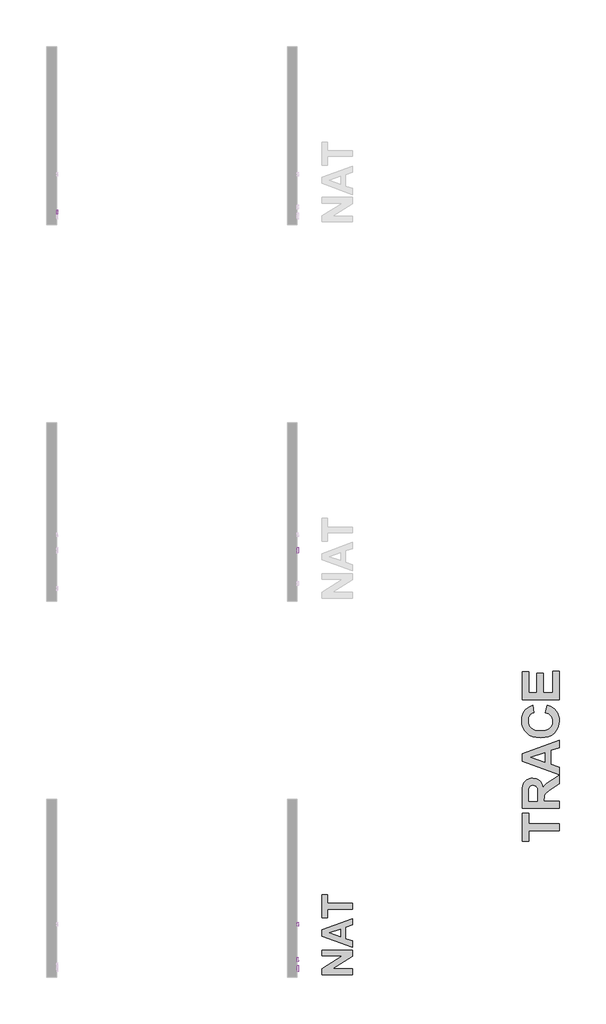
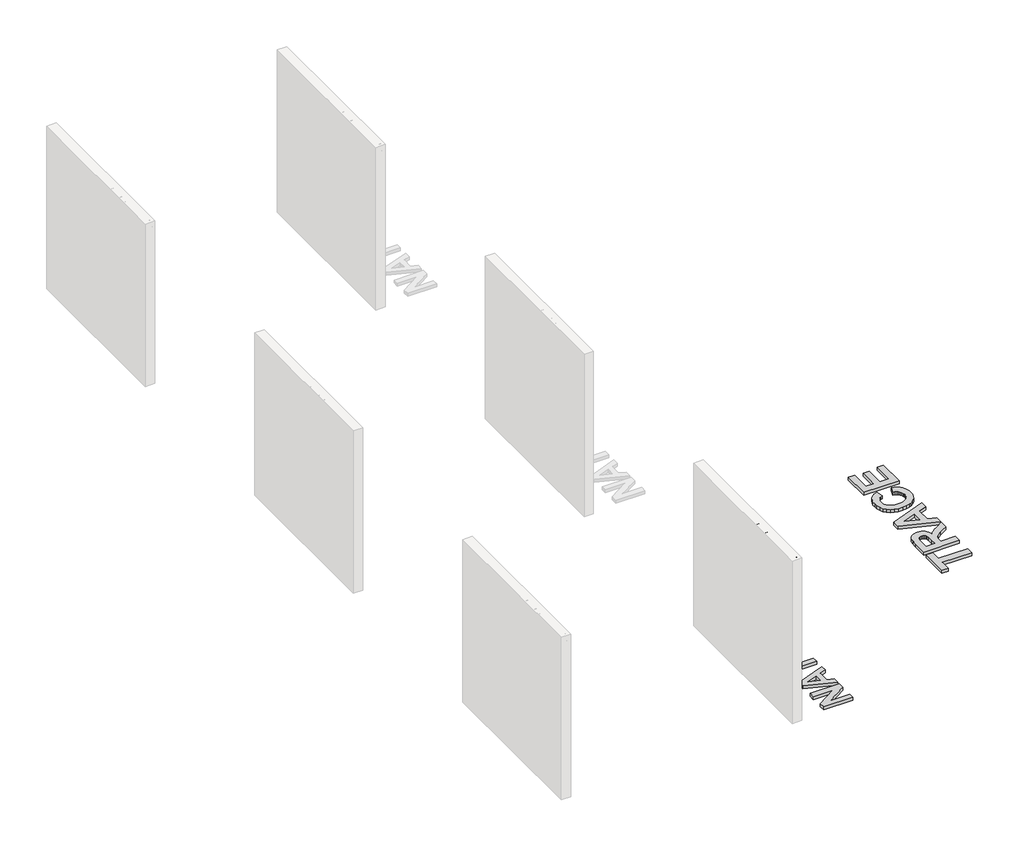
# One storey, part 6 of 9: 7 proxies.
"""IFC4 building model written with IfcOpenShell, lengths in millimetres."""

from ifc_helpers import new_model, si_unit, frame, origin, origin_with_axes, place, context, project, spatial, polyline, outline, extrude, element, save

model = new_model("IFC4")

# Units and contexts
model_context = context("Model", 3, world=origin())
ifc_project = project(units=[si_unit("LENGTHUNIT", "METRE", prefix="MILLI")], contexts=[model_context])

# Site, building, storey
site = spatial("IfcSite", under=ifc_project)
building = spatial("IfcBuilding", under=site)
storey = spatial("IfcBuildingStorey", under=building, Name="PORTOBELLO - SHOWROOM", Elevation=0.0)

# Proxies
placement = place(None, origin())
element("IfcBuildingElementProxy", 1, Name="10mm Arial", ObjectType="10mm Arial", at=placement, inside=storey, context=model_context, shape_type="SweptSolid", body=[
    extrude(outline(polyline([(3760.313312, 2567.3783476), (3763.6610381, 2589.5922887), (3773.7042166, 2606.3983645), (3789.0387644, 2616.9749719), (3808.2605987, 2620.5005077), (3821.4369055, 2618.8450387), (3833.2520489, 2613.8786317), (3843.0622354, 2605.9507747), (3850.2236716, 2595.4109556), (3854.6014673, 2582.7680777), (3856.0607326, 2568.5310445), (3854.5248253, 2554.1039389), (3849.9171033, 2541.2832514), (3842.4920183, 2530.7250381), (3832.5040222, 2523.0853553), (3820.7900463, 2518.4500422), (3808.1870223, 2516.9049378), (3794.8083804, 2518.6125234), (3782.9257919, 2523.7352802), (3773.1401309, 2531.81029), (3766.0522711, 2542.3746346), (3760.313312, 2567.3783476)]), holes=[polyline([(3772.8703507, 2567.2557202), (3775.3811454, 2551.5410277), (3782.9135292, 2539.5664687), (3794.2350976, 2531.9880996), (3808.1134459, 2529.4619766), (3822.1941293, 2532.0126251), (3833.5340918, 2539.6645706), (3841.0112933, 2552.0070115), (3843.5036938, 2568.6291463), (3839.2362627, 2589.3531654), (3826.765063, 2603.0751638), (3808.3341751, 2607.9434689), (3794.8267745, 2605.5982212), (3783.3427249, 2598.562478), (3775.4884443, 2586.0452931), (3772.8703507, 2567.2557202)])]), frame((-13466.0063329, 0.0, 0.0), z_axis=(1.0, 0.0, 0.0), x_axis=(0.0, 1.0, 0.0)), (0.0, 0.0, 1.0), 20.0),
    extrude(outline(polyline([(3918.8459264, 2545.158275), (3931.4029652, 2543.5886452), (3927.9019549, 2532.420361), (3921.3229985, 2523.9805349), (3912.2853642, 2518.6738371), (3901.4083199, 2516.9049378), (3888.0511378, 2519.3728129), (3877.6063548, 2526.776438), (3870.8649172, 2538.7908508), (3868.6177714, 2555.0910889), (3872.4560068, 2575.949998), (3884.1546543, 2589.3531654), (3901.2366416, 2593.8168003), (3911.8469715, 2592.2839586), (3920.3297171, 2587.6854337), (3926.4150985, 2580.2664801), (3929.8333354, 2570.2723526), (3917.2762966, 2568.7027227), (3911.4514983, 2578.1082391), (3901.3347435, 2581.2597615), (3893.2198798, 2579.7085258), (3886.7788792, 2575.0548185), (3882.5758274, 2567.0472538), (3881.1748101, 2555.4344454), (3882.5451706, 2543.6652873), (3886.6562519, 2535.6301314), (3892.9807565, 2531.0040153), (3900.9913869, 2529.4619766), (3912.8249244, 2533.3124748), (3918.8459264, 2545.158275)])), frame((-13466.0063329, 0.0, 0.0), z_axis=(1.0, 0.0, 0.0), x_axis=(0.0, 1.0, 0.0)), (0.0, 0.0, 1.0), 20.0),
    extrude(outline(polyline([(3942.3903741, 2518.4745677), (3942.3903741, 2618.9308778), (3954.9474129, 2618.9308778), (3954.9474129, 2581.9955255), (3964.7392053, 2590.8614816), (3976.7996034, 2593.8168003), (3990.9017466, 2590.5917015), (3999.4611343, 2581.6766944), (4002.0363083, 2565.1710556), (4002.0363083, 2518.4745677), (3989.4792695, 2518.4745677), (3989.4792695, 2563.8712059), (3985.4816185, 2577.1149577), (3974.150853, 2581.2597615), (3963.8624199, 2578.4638583), (3956.9952893, 2570.8854892), (3954.9474129, 2557.6662629), (3954.9474129, 2518.4745677), (3942.3903741, 2518.4745677)])), frame((-13466.0063329, 0.0, 0.0), z_axis=(1.0, 0.0, 0.0), x_axis=(0.0, 1.0, 0.0)), (0.0, 0.0, 1.0), 20.0),
    extrude(outline(polyline([(4070.9528687, 2540.4493855), (4083.2646528, 2538.8797557), (4078.8286091, 2529.602998), (4071.7499464, 2522.6684224), (4062.1880802, 2518.345809), (4050.302426, 2516.9049378), (4035.5687521, 2519.391207), (4024.2318553, 2526.8500144), (4017.0029741, 2538.7969822), (4014.593347, 2554.7477324), (4017.0274996, 2571.2349771), (4024.3299572, 2583.5651553), (4035.5135698, 2591.253889), (4049.5911875, 2593.8168003), (4063.2304125, 2591.2600204), (4074.1289166, 2583.5896808), (4081.2750244, 2571.2840281), (4083.6570603, 2554.8213088), (4083.5834839, 2551.4367944), (4027.1503858, 2551.4367944), (4029.3239553, 2542.0374095), (4034.3731357, 2535.1273593), (4041.6602648, 2530.8783223), (4050.5476807, 2529.4619766), (4062.8594648, 2532.0862015), (4070.9528687, 2540.4493855)]), holes=[polyline([(4027.1503858, 2563.9938332), (4071.1000215, 2563.9938332), (4066.0723009, 2575.3736496), (4058.7514492, 2579.7882335), (4049.5421366, 2581.2597615), (4034.0788301, 2576.5631347), (4029.2135907, 2571.0724959), (4027.1503858, 2563.9938332)])]), frame((-13466.0063329, 0.0, 0.0), z_axis=(1.0, 0.0, 0.0), x_axis=(0.0, 1.0, 0.0)), (0.0, 0.0, 1.0), 20.0),
    extrude(outline(polyline([(4096.214099, 2518.4745677), (4096.214099, 2592.2471704), (4107.201508, 2592.2471704), (4107.201508, 2581.3333379), (4115.0006063, 2591.3887791), (4122.8487555, 2593.8168003), (4135.4548452, 2589.9417766), (4131.2609904, 2578.6845875), (4122.4318226, 2581.2597615), (4115.3317001, 2578.7826894), (4110.8067515, 2571.9155588), (4108.7711378, 2557.24933), (4108.7711378, 2518.4745677), (4096.214099, 2518.4745677)])), frame((-13466.0063329, 0.0, 0.0), z_axis=(1.0, 0.0, 0.0), x_axis=(0.0, 1.0, 0.0)), (0.0, 0.0, 1.0), 20.0),
    extrude(outline(polyline([(4184.1133704, 2518.4745677), (4184.1133704, 2618.9308778), (4205.6467299, 2618.9308778), (4226.2481216, 2548.1258565), (4230.4174509, 2533.3370003), (4234.9056112, 2549.3521298), (4255.1145955, 2618.9308778), (4276.7215313, 2618.9308778), (4276.7215313, 2518.4745677), (4264.1644926, 2518.4745677), (4264.1644926, 2606.373839), (4238.9277877, 2518.4745677), (4221.9316395, 2518.4745677), (4196.6704092, 2606.373839), (4196.6704092, 2518.4745677), (4184.1133704, 2518.4745677)])), frame((-13466.0063329, 0.0, 0.0), z_axis=(1.0, 0.0, 0.0), x_axis=(0.0, 1.0, 0.0)), (0.0, 0.0, 1.0), 20.0),
    extrude(outline(polyline([(-13446.0063329, 4309.6837581), (-13446.0063329, 4297.1267193), (-13466.0063329, 4297.1267193), (-13466.0063329, 4309.6837581), (-13446.0063329, 4309.6837581)])), frame((0.0, 0.0, 2606.373839), z_axis=(0.0, 0.0, 1.0), x_axis=(1.0, 0.0, 0.0)), (0.0, 0.0, 1.0), 12.5570388),
    extrude(outline(polyline([(-13446.0063329, 4309.6837581), (-13446.0063329, 4297.1267193), (-13466.0063329, 4297.1267193), (-13466.0063329, 4309.6837581), (-13446.0063329, 4309.6837581)])), frame((0.0, 0.0, 2518.4745677), z_axis=(0.0, 0.0, 1.0), x_axis=(1.0, 0.0, 0.0)), (0.0, 0.0, 1.0), 73.7726028),
    extrude(outline(polyline([(4320.671167, 2518.4745677), (4347.5020272, 2555.5815982), (4322.2407969, 2592.2471704), (4337.2994332, 2592.2471704), (4349.48859, 2574.5643092), (4355.2030236, 2566.2501761), (4360.1571678, 2573.0682557), (4374.0385818, 2592.2471704), (4389.1462691, 2592.2471704), (4362.6097145, 2555.5570728), (4388.1652504, 2518.4745677), (4373.0820886, 2518.4745677), (4357.6800957, 2540.792742), (4354.8841926, 2544.8884949), (4335.7788543, 2518.4745677), (4320.671167, 2518.4745677)])), frame((-13466.0063329, 0.0, 0.0), z_axis=(1.0, 0.0, 0.0), x_axis=(0.0, 1.0, 0.0)), (0.0, 0.0, 1.0), 20.0),
])
element("IfcBuildingElementProxy", 2, Name="10mm Arial", ObjectType="10mm Arial", at=placement, inside=storey, context=model_context, shape_type="SweptSolid", body=[
    extrude(outline(polyline([(3824.6681357, 2396.0316064), (3824.6681357, 2383.4745677), (3758.7436821, 2383.4745677), (3760.0925828, 2392.1320573), (3767.7322655, 2405.4616482), (3783.4653522, 2420.0175125), (3805.1336017, 2440.9377353), (3810.5414671, 2455.1625058), (3805.4279073, 2466.6772122), (3792.0737909, 2471.373839), (3778.1555887, 2466.7875768), (3772.8703507, 2454.1079107), (3760.313312, 2455.6775406), (3763.3575355, 2467.8237778), (3769.9395575, 2476.6958652), (3779.7160215, 2482.1221247), (3792.343571, 2483.9308778), (3805.063091, 2481.9197896), (3814.8211609, 2475.8865249), (3821.0291696, 2466.873416), (3823.0985058, 2455.9227952), (3820.8666884, 2444.0156813), (3813.4477348, 2431.7038972), (3795.4583053, 2414.4992826), (3781.0128056, 2402.4204904), (3775.3474228, 2396.0316064), (3824.6681357, 2396.0316064)])), frame((-13466.0063329, 0.0, 0.0), z_axis=(1.0, 0.0, 0.0), x_axis=(0.0, 1.0, 0.0)), (0.0, 0.0, 1.0), 20.0),
    extrude(outline(polyline([(3837.2251744, 2432.8933823), (3840.9162571, 2461.7966444), (3851.8791406, 2478.4616988), (3870.1874012, 2483.9308778), (3884.8536301, 2480.6935163), (3894.9826477, 2471.3615763), (3900.8687596, 2456.4991437), (3903.149628, 2432.8933823), (3899.4953335, 2404.1127476), (3888.5692382, 2387.410905), (3880.3378786, 2383.2814296), (3870.1874012, 2381.9049378), (3857.1398531, 2384.2961708), (3847.2315647, 2391.4698697), (3839.726772, 2408.4598865), (3837.2251744, 2432.8933823)]), holes=[polyline([(3849.7822132, 2432.9179078), (3851.2537412, 2413.1657104), (3855.6683251, 2401.7337774), (3862.2411501, 2396.2799268), (3870.1874012, 2394.4619766), (3878.1336523, 2396.2860581), (3884.7064773, 2401.7583028), (3889.1210612, 2413.1963672), (3890.5925892, 2432.9179078), (3889.1701122, 2452.2255812), (3884.902681, 2463.746419), (3878.3421188, 2469.466984), (3870.0402484, 2471.373839), (3862.1798364, 2469.6938446), (3855.8645289, 2464.6538613), (3851.3027921, 2452.4156536), (3849.7822132, 2432.9179078)])]), frame((-13466.0063329, 0.0, 0.0), z_axis=(1.0, 0.0, 0.0), x_axis=(0.0, 1.0, 0.0)), (0.0, 0.0, 1.0), 20.0),
    extrude(outline(polyline([(3909.4281474, 2383.4745677), (3936.2590075, 2420.5815982), (3910.9977772, 2457.2471704), (3926.0564135, 2457.2471704), (3938.2455703, 2439.5643092), (3943.960004, 2431.2501761), (3948.9141482, 2438.0682557), (3962.7955621, 2457.2471704), (3977.9032494, 2457.2471704), (3951.3666948, 2420.5570728), (3976.9222307, 2383.4745677), (3961.8390689, 2383.4745677), (3946.4370761, 2405.792742), (3943.6411729, 2409.8884949), (3924.5358346, 2383.4745677), (3909.4281474, 2383.4745677)])), frame((-13466.0063329, 0.0, 0.0), z_axis=(1.0, 0.0, 0.0), x_axis=(0.0, 1.0, 0.0)), (0.0, 0.0, 1.0), 20.0),
    extrude(outline(polyline([(4049.1252037, 2396.0316064), (4049.1252037, 2383.4745677), (3983.2007501, 2383.4745677), (3984.5496508, 2392.1320573), (3992.1893335, 2405.4616482), (4007.9224202, 2420.0175125), (4029.5906697, 2440.9377353), (4034.998535, 2455.1625058), (4029.8849753, 2466.6772122), (4016.5308589, 2471.373839), (4002.6126567, 2466.7875768), (3997.3274187, 2454.1079107), (3984.77038, 2455.6775406), (3987.8146035, 2467.8237778), (3994.3966255, 2476.6958652), (4004.1730895, 2482.1221247), (4016.800639, 2483.9308778), (4029.520159, 2481.9197896), (4039.2782289, 2475.8865249), (4045.4862376, 2466.873416), (4047.5555738, 2455.9227952), (4045.3237564, 2444.0156813), (4037.9048028, 2431.7038972), (4019.9153732, 2414.4992826), (4005.4698736, 2402.4204904), (3999.8044908, 2396.0316064), (4049.1252037, 2396.0316064)])), frame((-13466.0063329, 0.0, 0.0), z_axis=(1.0, 0.0, 0.0), x_axis=(0.0, 1.0, 0.0)), (0.0, 0.0, 1.0), 20.0),
    extrude(outline(polyline([(4061.6822424, 2432.8933823), (4065.3733251, 2461.7966444), (4076.3362086, 2478.4616988), (4094.6444692, 2483.9308778), (4109.3106981, 2480.6935163), (4119.4397157, 2471.3615763), (4125.3258276, 2456.4991437), (4127.606696, 2432.8933823), (4123.9524015, 2404.1127476), (4113.0263062, 2387.410905), (4104.7949466, 2383.2814296), (4094.6444692, 2381.9049378), (4081.5969211, 2384.2961708), (4071.6886327, 2391.4698697), (4064.18384, 2408.4598865), (4061.6822424, 2432.8933823)]), holes=[polyline([(4074.2392812, 2432.9179078), (4075.7108092, 2413.1657104), (4080.1253931, 2401.7337774), (4086.6982181, 2396.2799268), (4094.6444692, 2394.4619766), (4102.5907203, 2396.2860581), (4109.1635453, 2401.7583028), (4113.5781292, 2413.1963672), (4115.0496572, 2432.9179078), (4113.6271801, 2452.2255812), (4109.359749, 2463.746419), (4102.7991868, 2469.466984), (4094.4973164, 2471.373839), (4086.6369044, 2469.6938446), (4080.3215968, 2464.6538613), (4075.7598601, 2452.4156536), (4074.2392812, 2432.9179078)])]), frame((-13466.0063329, 0.0, 0.0), z_axis=(1.0, 0.0, 0.0), x_axis=(0.0, 1.0, 0.0)), (0.0, 0.0, 1.0), 20.0),
])
element("IfcBuildingElementProxy", 3, Name="10mm Arial", ObjectType="10mm Arial", at=placement, inside=storey, context=model_context, shape_type="SweptSolid", body=[
    extrude(outline(polyline([(9490.1362791, 2518.4745677), (9490.1362791, 2606.373839), (9457.1740523, 2606.373839), (9457.1740523, 2618.9308778), (9535.6555446, 2618.9308778), (9535.6555446, 2606.373839), (9502.6933178, 2606.373839), (9502.6933178, 2518.4745677), (9490.1362791, 2518.4745677)])), frame((-13466.0063329, 0.0, 0.0), z_axis=(1.0, 0.0, 0.0), x_axis=(0.0, 1.0, 0.0)), (0.0, 0.0, 1.0), 20.0),
    extrude(outline(polyline([(9599.8632155, 2540.4493855), (9612.1749996, 2538.8797557), (9607.7389559, 2529.602998), (9600.6602931, 2522.6684224), (9591.0984269, 2518.345809), (9579.2127728, 2516.9049378), (9564.4790989, 2519.391207), (9553.1422021, 2526.8500144), (9545.9133209, 2538.7969822), (9543.5036938, 2554.7477324), (9545.9378464, 2571.2349771), (9553.240304, 2583.5651553), (9564.4239166, 2591.253889), (9578.5015343, 2593.8168003), (9592.1407593, 2591.2600204), (9603.0392634, 2583.5896808), (9610.1853711, 2571.2840281), (9612.567407, 2554.8213088), (9612.4938306, 2551.4367944), (9556.0607326, 2551.4367944), (9558.234302, 2542.0374095), (9563.2834824, 2535.1273593), (9570.5706116, 2530.8783223), (9579.4580275, 2529.4619766), (9591.7698116, 2532.0862015), (9599.8632155, 2540.4493855)]), holes=[polyline([(9556.0607326, 2563.9938332), (9600.0103683, 2563.9938332), (9594.9826477, 2575.3736496), (9587.661796, 2579.7882335), (9578.4524834, 2581.2597615), (9562.9891768, 2576.5631347), (9558.1239374, 2571.0724959), (9556.0607326, 2563.9938332)])]), frame((-13466.0063329, 0.0, 0.0), z_axis=(1.0, 0.0, 0.0), x_axis=(0.0, 1.0, 0.0)), (0.0, 0.0, 1.0), 20.0),
    extrude(outline(polyline([(9625.1244458, 2518.4745677), (9625.1244458, 2592.2471704), (9636.1118547, 2592.2471704), (9636.1118547, 2581.3333379), (9643.910953, 2591.3887791), (9651.7591023, 2593.8168003), (9664.365192, 2589.9417766), (9660.1713372, 2578.6845875), (9651.3421693, 2581.2597615), (9644.2420468, 2578.7826894), (9639.7170983, 2571.9155588), (9637.6814846, 2557.24933), (9637.6814846, 2518.4745677), (9625.1244458, 2518.4745677)])), frame((-13466.0063329, 0.0, 0.0), z_axis=(1.0, 0.0, 0.0), x_axis=(0.0, 1.0, 0.0)), (0.0, 0.0, 1.0), 20.0),
    extrude(outline(polyline([(9672.2133412, 2518.4745677), (9672.2133412, 2592.2471704), (9683.2007501, 2592.2471704), (9683.2007501, 2581.3333379), (9690.9998484, 2591.3887791), (9698.8479977, 2593.8168003), (9711.4540874, 2589.9417766), (9707.2602326, 2578.6845875), (9698.4310647, 2581.2597615), (9691.3309422, 2578.7826894), (9686.8059937, 2571.9155588), (9684.77038, 2557.24933), (9684.77038, 2518.4745677), (9672.2133412, 2518.4745677)])), frame((-13466.0063329, 0.0, 0.0), z_axis=(1.0, 0.0, 0.0), x_axis=(0.0, 1.0, 0.0)), (0.0, 0.0, 1.0), 20.0),
    extrude(outline(polyline([(9766.391132, 2527.8923467), (9754.2142379, 2519.3820099), (9740.7620196, 2516.9049378), (9730.2681857, 2518.3948599), (9722.5273354, 2522.8646261), (9717.7540665, 2529.6520489), (9716.1629769, 2538.0949407), (9718.5664726, 2548.0277546), (9724.8817802, 2555.2382417), (9733.6741599, 2559.3585201), (9744.5389415, 2561.246981), (9766.3175556, 2565.563463), (9766.391132, 2568.3593662), (9762.9330412, 2577.6299925), (9749.0516273, 2581.2597615), (9736.3474357, 2578.8440031), (9730.2896455, 2570.2723526), (9717.7326067, 2571.8419824), (9723.1649975, 2584.1047156), (9734.1033555, 2591.2906772), (9750.670308, 2593.8168003), (9765.8883599, 2591.5849828), (9774.4845359, 2585.9809138), (9778.3350341, 2577.4583142), (9778.9481707, 2566.4709053), (9778.9481707, 2550.8481832), (9779.5858329, 2529.0327809), (9782.0874304, 2518.4745677), (9769.5303917, 2518.4745677), (9766.391132, 2527.8923467)]), holes=[polyline([(9766.391132, 2553.0064243), (9746.1330968, 2549.1559261), (9735.3296288, 2547.1203124), (9730.4367983, 2543.8093744), (9728.7200157, 2538.9778575), (9732.4601493, 2532.1843033), (9743.4352955, 2529.4619766), (9756.139487, 2532.4663462), (9764.3309928, 2539.738147), (9766.3175556, 2549.4502317), (9766.391132, 2553.0064243)])]), frame((-13466.0063329, 0.0, 0.0), z_axis=(1.0, 0.0, 0.0), x_axis=(0.0, 1.0, 0.0)), (0.0, 0.0, 1.0), 20.0),
    extrude(outline(polyline([(9843.3029944, 2545.158275), (9855.8600332, 2543.5886452), (9852.3590229, 2532.420361), (9845.7800665, 2523.9805349), (9836.7424322, 2518.6738371), (9825.8653879, 2516.9049378), (9812.5082057, 2519.3728129), (9802.0634228, 2526.776438), (9795.3219852, 2538.7908508), (9793.0748393, 2555.0910889), (9796.9130748, 2575.949998), (9808.6117223, 2589.3531654), (9825.6937096, 2593.8168003), (9836.3040395, 2592.2839586), (9844.7867851, 2587.6854337), (9850.8721665, 2580.2664801), (9854.2904033, 2570.2723526), (9841.7333646, 2568.7027227), (9835.9085663, 2578.1082391), (9825.7918115, 2581.2597615), (9817.6769478, 2579.7085258), (9811.2359472, 2575.0548185), (9807.0328954, 2567.0472538), (9805.6318781, 2555.4344454), (9807.0022385, 2543.6652873), (9811.1133198, 2535.6301314), (9817.4378245, 2531.0040153), (9825.4484549, 2529.4619766), (9837.2819924, 2533.3124748), (9843.3029944, 2545.158275)])), frame((-13466.0063329, 0.0, 0.0), z_axis=(1.0, 0.0, 0.0), x_axis=(0.0, 1.0, 0.0)), (0.0, 0.0, 1.0), 20.0),
    extrude(outline(polyline([(9863.7081824, 2555.360869), (9866.4243778, 2573.1479635), (9874.572964, 2585.64982), (9884.6406679, 2591.7750552), (9896.6949347, 2593.8168003), (9909.8865699, 2591.3305311), (9920.4233233, 2583.8717237), (9927.3303078, 2572.0289891), (9929.632636, 2556.3909386), (9925.5614085, 2534.0482388), (9913.7033456, 2521.4053609), (9896.6949347, 2516.9049378), (9883.3438839, 2519.3820099), (9872.8193932, 2526.8132262), (9865.9859851, 2538.9042811), (9863.7081824, 2555.360869)]), holes=[polyline([(9876.2652212, 2555.3853945), (9877.7183551, 2544.0209065), (9882.0777567, 2535.924437), (9888.638319, 2531.0775917), (9896.6949347, 2529.4619766), (9904.7147622, 2531.0867887), (9911.2630617, 2535.9612252), (9915.6224633, 2544.1649937), (9917.0755972, 2555.777802), (9915.6132663, 2566.8111961), (9911.2262735, 2574.7973011), (9904.6687769, 2579.6441464), (9896.6949347, 2581.2597615), (9888.638319, 2579.6502778), (9882.0777567, 2574.8218266), (9877.7183551, 2566.7437511), (9876.2652212, 2555.3853945)])]), frame((-13466.0063329, 0.0, 0.0), z_axis=(1.0, 0.0, 0.0), x_axis=(0.0, 1.0, 0.0)), (0.0, 0.0, 1.0), 20.0),
    extrude(outline(polyline([(9970.443012, 2528.9469418), (9972.0126418, 2518.1066857), (9962.6193882, 2516.9049378), (9952.0979631, 2518.9896025), (9946.8495133, 2524.4587815), (9945.3289344, 2538.7080774), (9945.3289344, 2579.6901317), (9935.9111553, 2579.6901317), (9935.9111553, 2592.2471704), (9945.3289344, 2592.2471704), (9945.3289344, 2610.1752863), (9957.8859732, 2617.5574517), (9957.8859732, 2592.2471704), (9970.443012, 2592.2471704), (9970.443012, 2579.6901317), (9957.8859732, 2579.6901317), (9957.8859732, 2539.0759594), (9958.5481608, 2532.6012363), (9960.6941391, 2530.3081052), (9964.973833, 2529.4619766), (9970.443012, 2528.9469418)])), frame((-13466.0063329, 0.0, 0.0), z_axis=(1.0, 0.0, 0.0), x_axis=(0.0, 1.0, 0.0)), (0.0, 0.0, 1.0), 20.0),
    extrude(outline(polyline([(10030.0889461, 2527.8923467), (10017.9120521, 2519.3820099), (10004.4598338, 2516.9049378), (9993.9659999, 2518.3948599), (9986.2251496, 2522.8646261), (9981.4518807, 2529.6520489), (9979.860791, 2538.0949407), (9982.2642867, 2548.0277546), (9988.5795943, 2555.2382417), (9997.371974, 2559.3585201), (10008.2367556, 2561.246981), (10030.0153697, 2565.563463), (10030.0889461, 2568.3593662), (10026.6308554, 2577.6299925), (10012.7494414, 2581.2597615), (10000.0452498, 2578.8440031), (9993.9874596, 2570.2723526), (9981.4304209, 2571.8419824), (9986.8628117, 2584.1047156), (9997.8011697, 2591.2906772), (10014.3681222, 2593.8168003), (10029.586174, 2591.5849828), (10038.18235, 2585.9809138), (10042.0328482, 2577.4583142), (10042.6459849, 2566.4709053), (10042.6459849, 2550.8481832), (10043.283647, 2529.0327809), (10045.7852446, 2518.4745677), (10033.2282058, 2518.4745677), (10030.0889461, 2527.8923467)]), holes=[polyline([(10030.0889461, 2553.0064243), (10009.8309109, 2549.1559261), (9999.027443, 2547.1203124), (9994.1346124, 2543.8093744), (9992.4178298, 2538.9778575), (9996.1579634, 2532.1843033), (10007.1331096, 2529.4619766), (10019.8373012, 2532.4663462), (10028.0288069, 2539.738147), (10030.0153697, 2549.4502317), (10030.0889461, 2553.0064243)])]), frame((-13466.0063329, 0.0, 0.0), z_axis=(1.0, 0.0, 0.0), x_axis=(0.0, 1.0, 0.0)), (0.0, 0.0, 1.0), 20.0),
    extrude(outline(polyline([(10100.7222892, 2518.4745677), (10100.7222892, 2618.9308778), (10122.2556486, 2618.9308778), (10142.8570404, 2548.1258565), (10147.0263696, 2533.3370003), (10151.51453, 2549.3521298), (10171.7235143, 2618.9308778), (10193.3304501, 2618.9308778), (10193.3304501, 2518.4745677), (10180.7734113, 2518.4745677), (10180.7734113, 2606.373839), (10155.5367065, 2518.4745677), (10138.5405583, 2518.4745677), (10113.279328, 2606.373839), (10113.279328, 2518.4745677), (10100.7222892, 2518.4745677)])), frame((-13466.0063329, 0.0, 0.0), z_axis=(1.0, 0.0, 0.0), x_axis=(0.0, 1.0, 0.0)), (0.0, 0.0, 1.0), 20.0),
    extrude(outline(polyline([(-13446.0063329, 10226.2926769), (-13446.0063329, 10213.7356381), (-13466.0063329, 10213.7356381), (-13466.0063329, 10226.2926769), (-13446.0063329, 10226.2926769)])), frame((0.0, 0.0, 2518.4745677), z_axis=(0.0, 0.0, 1.0), x_axis=(1.0, 0.0, 0.0)), (0.0, 0.0, 1.0), 73.7726028),
    extrude(outline(polyline([(-13446.0063329, 10226.2926769), (-13446.0063329, 10213.7356381), (-13466.0063329, 10213.7356381), (-13466.0063329, 10226.2926769), (-13446.0063329, 10226.2926769)])), frame((0.0, 0.0, 2606.373839), z_axis=(0.0, 0.0, 1.0), x_axis=(1.0, 0.0, 0.0)), (0.0, 0.0, 1.0), 12.5570388),
    extrude(outline(polyline([(10237.2800858, 2518.4745677), (10264.110946, 2555.5815982), (10238.8497156, 2592.2471704), (10253.908352, 2592.2471704), (10266.0975087, 2574.5643092), (10271.8119424, 2566.2501761), (10276.7660866, 2573.0682557), (10290.6475006, 2592.2471704), (10305.7551878, 2592.2471704), (10279.2186332, 2555.5570728), (10304.7741692, 2518.4745677), (10289.6910074, 2518.4745677), (10274.2890145, 2540.792742), (10271.4931113, 2544.8884949), (10252.3877731, 2518.4745677), (10237.2800858, 2518.4745677)])), frame((-13466.0063329, 0.0, 0.0), z_axis=(1.0, 0.0, 0.0), x_axis=(0.0, 1.0, 0.0)), (0.0, 0.0, 1.0), 20.0),
])
element("IfcBuildingElementProxy", 4, Name="10mm Arial", ObjectType="10mm Arial", at=placement, inside=storey, context=model_context, shape_type="SweptSolid", body=[
    extrude(outline(polyline([(15161.8829418, 2408.5886452), (15174.4399806, 2410.158275), (15180.0808379, 2398.1775847), (15190.7739412, 2394.4619766), (15200.939747, 2396.8532096), (15207.831403, 2403.2420935), (15211.9394186, 2414.1559261), (15213.7543031, 2428.7240531), (15213.6807267, 2431.1765997), (15203.6375483, 2421.6607188), (15189.8664989, 2418.0064243), (15178.4161718, 2420.2382417), (15168.8849625, 2426.933694), (15162.4562246, 2437.2773095), (15160.313312, 2450.4536163), (15162.5604578, 2464.0652501), (15169.3018954, 2474.7338279), (15179.4278473, 2481.6316153), (15191.8285362, 2483.9308778), (15209.7198639, 2478.682428), (15222.031648, 2463.7218935), (15226.2377655, 2435.6157091), (15222.0439108, 2405.1182917), (15216.8291835, 2395.1272299), (15209.5727111, 2387.8401007), (15200.5871934, 2383.3887285), (15190.18533, 2381.9049378), (15179.4493071, 2383.655443), (15170.883788, 2388.9069585), (15164.8934428, 2397.3283905), (15161.8829418, 2408.5886452)]), holes=[polyline([(15213.6807267, 2450.7479218), (15212.3256947, 2459.2582587), (15208.2605987, 2465.8065582), (15201.9514225, 2469.9820188), (15193.8641499, 2471.373839), (15185.4764404, 2469.8747199), (15178.7564627, 2465.3773625), (15174.3418787, 2458.4949035), (15172.8703507, 2449.8404796), (15174.262171, 2442.0812352), (15178.4376316, 2435.9222774), (15184.9920625, 2431.9031666), (15193.5207934, 2430.563463), (15208.0030813, 2435.9222774), (15212.2613154, 2442.3080957), (15213.6807267, 2450.7479218)])]), frame((-17115.5080774, 0.0, 0.0), z_axis=(1.0, 0.0, 0.0), x_axis=(0.0, 1.0, 0.0)), (0.0, 0.0, 1.0), 20.0),
    extrude(outline(polyline([(15232.5162849, 2383.4745677), (15259.3471451, 2420.5815982), (15234.0859147, 2457.2471704), (15249.1445511, 2457.2471704), (15261.3337079, 2439.5643092), (15267.0481415, 2431.2501761), (15272.0022857, 2438.0682557), (15285.8836997, 2457.2471704), (15300.9913869, 2457.2471704), (15274.4548323, 2420.5570728), (15300.0103683, 2383.4745677), (15284.9272065, 2383.4745677), (15269.5252136, 2405.792742), (15266.7293104, 2409.8884949), (15247.6239722, 2383.4745677), (15232.5162849, 2383.4745677)])), frame((-17115.5080774, 0.0, 0.0), z_axis=(1.0, 0.0, 0.0), x_axis=(0.0, 1.0, 0.0)), (0.0, 0.0, 1.0), 20.0),
    extrude(outline(polyline([(15307.8585175, 2410.158275), (15320.4155563, 2411.7279049), (15327.3440005, 2398.5086785), (15340.3057095, 2394.4619766), (15348.9141482, 2395.8537968), (15355.5605496, 2400.0292574), (15361.2259323, 2413.8125695), (15355.6096005, 2426.798804), (15341.3357791, 2431.9368892), (15332.5311367, 2430.563463), (15333.9290882, 2443.1205018), (15335.9401765, 2442.973349), (15350.1894724, 2446.5785926), (15354.9351502, 2451.152592), (15356.5170427, 2457.6641034), (15351.9307805, 2467.4865526), (15340.1095058, 2471.373839), (15328.1410782, 2467.4497644), (15321.9851861, 2455.6775406), (15309.4281474, 2457.2471704), (15313.1253614, 2468.5227536), (15319.7043178, 2476.9411199), (15328.7051639, 2482.1834383), (15339.6680474, 2483.9308778), (15354.8125228, 2480.4850498), (15365.4075243, 2471.0672707), (15369.0740815, 2458.3998673), (15365.5914653, 2446.8238472), (15355.2907694, 2438.5097141), (15368.9759796, 2429.9258009), (15373.782971, 2413.5918403), (15371.3794753, 2401.3536326), (15364.1689882, 2391.1265132), (15353.2858125, 2384.2103317), (15339.8642511, 2381.9049378), (15327.7241453, 2383.8731065), (15317.8403823, 2389.7776125), (15310.9671204, 2398.8091155), (15307.8585175, 2410.158275)])), frame((-17115.5080774, 0.0, 0.0), z_axis=(1.0, 0.0, 0.0), x_axis=(0.0, 1.0, 0.0)), (0.0, 0.0, 1.0), 20.0),
    extrude(outline(polyline([(15384.77038, 2469.8042092), (15384.77038, 2482.361248), (15450.6948335, 2482.361248), (15450.6948335, 2472.2077049), (15431.9941654, 2445.1929037), (15417.6835558, 2410.7714117), (15413.0237172, 2383.4745677), (15400.4666784, 2383.4745677), (15405.4576108, 2411.8014813), (15419.1550838, 2443.8194776), (15438.1377947, 2469.8042092), (15384.77038, 2469.8042092)])), frame((-17115.5080774, 0.0, 0.0), z_axis=(1.0, 0.0, 0.0), x_axis=(0.0, 1.0, 0.0)), (0.0, 0.0, 1.0), 20.0),
])
element("IfcBuildingElementProxy", 5, Name="10mm Arial Narrow", ObjectType="10mm Arial Narrow", at=placement, inside=storey, context=model_context, shape_type="SweptSolid", body=[
    extrude(outline(polyline([(4446.9277964, 2518.4745677), (4446.9277964, 2615.7916181), (4477.1676964, 2615.7916181), (4492.9130458, 2613.9767336), (4503.9985566, 2604.8164719), (4508.1433604, 2588.3721467), (4506.4173807, 2576.7041561), (4501.2394416, 2567.402873), (4491.8247282, 2561.314426), (4477.3884256, 2559.2849437), (4456.3455754, 2559.2849437), (4456.3455754, 2518.4745677), (4446.9277964, 2518.4745677)]), holes=[polyline([(4456.3455754, 2570.2723526), (4478.5411225, 2570.2723526), (4493.869539, 2574.6501483), (4498.7255813, 2587.857112), (4496.3343483, 2597.6795612), (4490.558601, 2603.2836303), (4478.3203933, 2604.8042092), (4456.3455754, 2604.8042092), (4456.3455754, 2570.2723526)])]), frame((-13466.0063329, 0.0, 0.0), z_axis=(1.0, 0.0, 0.0), x_axis=(0.0, 1.0, 0.0)), (0.0, 0.0, 1.0), 20.0),
    extrude(outline(polyline([(4515.9915096, 2553.7912392), (4517.8799705, 2569.8216971), (4523.5453532, 2581.3701261), (4532.104741, 2588.350687), (4542.675217, 2590.6775406), (4553.1230656, 2588.350687), (4561.7069789, 2581.3701261), (4567.445938, 2570.0056381), (4569.3589244, 2554.5270032), (4567.4796605, 2537.9447223), (4561.8418689, 2526.2123523), (4553.2916782, 2519.2317914), (4542.675217, 2516.9049378), (4532.1813831, 2519.2379228), (4523.6066669, 2526.2368778), (4517.8952989, 2537.7914381), (4515.9915096, 2553.7912392)]), holes=[polyline([(4525.4092887, 2553.8157647), (4526.6692845, 2541.6879216), (4530.449272, 2533.1162711), (4536.093195, 2528.0211054), (4542.9449971, 2526.3227169), (4549.4381143, 2528.0364339), (4554.9379502, 2533.1775847), (4558.6903465, 2541.7645636), (4559.9411453, 2553.8157647), (4558.6811495, 2565.9068196), (4554.901162, 2574.4662073), (4549.257239, 2579.561373), (4542.4054369, 2581.2597615), (4535.8663344, 2579.5521759), (4530.3756956, 2574.4294191), (4526.6508904, 2565.8608343), (4525.4092887, 2553.8157647)])]), frame((-13466.0063329, 0.0, 0.0), z_axis=(1.0, 0.0, 0.0), x_axis=(0.0, 1.0, 0.0)), (0.0, 0.0, 1.0), 20.0),
    extrude(outline(polyline([(4638.4226376, 2526.3227169), (4639.9922674, 2516.9049378), (4632.8798822, 2516.9049378), (4624.8845802, 2518.9528143), (4620.7152509, 2524.5568833), (4619.5870794, 2538.7080774), (4619.5870794, 2579.6901317), (4611.7389302, 2579.6901317), (4611.7389302, 2582.8293914), (4610.1693004, 2578.1205018), (4602.8607114, 2579.6901317), (4596.9868622, 2577.4460515), (4593.2467286, 2571.1797948), (4591.3337422, 2556.2928368), (4591.3337422, 2518.4745677), (4581.9159631, 2518.4745677), (4581.9159631, 2589.1079107), (4591.3337422, 2589.1079107), (4591.3337422, 2579.7391826), (4597.3670069, 2588.5192995), (4603.5474244, 2590.6775406), (4611.7389302, 2589.1079107), (4619.5870794, 2589.1079107), (4619.5870794, 2604.8042092), (4629.0048585, 2612.6523584), (4629.0048585, 2589.1079107), (4638.4226376, 2589.1079107), (4638.4226376, 2579.6901317), (4629.0048585, 2579.6901317), (4629.0048585, 2536.5498364), (4629.8387244, 2528.8243145), (4634.3023592, 2526.3227169), (4638.4226376, 2526.3227169)])), frame((-13466.0063329, 0.0, 0.0), z_axis=(1.0, 0.0, 0.0), x_axis=(0.0, 1.0, 0.0)), (0.0, 0.0, 1.0), 20.0),
    extrude(outline(polyline([(4644.701157, 2553.7912392), (4646.5896179, 2569.8216971), (4652.2550006, 2581.3701261), (4660.8143884, 2588.350687), (4671.3848644, 2590.6775406), (4681.832713, 2588.350687), (4690.4166262, 2581.3701261), (4696.1555854, 2570.0056381), (4698.0685717, 2554.5270032), (4696.1893079, 2537.9447223), (4690.5515163, 2526.2123523), (4682.0013256, 2519.2317914), (4671.3848644, 2516.9049378), (4660.8910304, 2519.2379228), (4652.3163143, 2526.2368778), (4646.6049463, 2537.7914381), (4644.701157, 2553.7912392)]), holes=[polyline([(4654.1189361, 2553.8157647), (4655.3789319, 2541.6879216), (4659.1589194, 2533.1162711), (4664.8028423, 2528.0211054), (4671.6546445, 2526.3227169), (4678.1477617, 2528.0364339), (4683.6475975, 2533.1775847), (4687.3999939, 2541.7645636), (4688.6507927, 2553.8157647), (4687.3907968, 2565.9068196), (4683.6108093, 2574.4662073), (4677.9668864, 2579.561373), (4671.1150842, 2581.2597615), (4664.5759818, 2579.5521759), (4659.085343, 2574.4294191), (4655.3605378, 2565.8608343), (4654.1189361, 2553.8157647)])]), frame((-13466.0063329, 0.0, 0.0), z_axis=(1.0, 0.0, 0.0), x_axis=(0.0, 1.0, 0.0)), (0.0, 0.0, 1.0), 20.0),
    extrude(outline(polyline([(4720.0433896, 2518.4745677), (4710.6256105, 2518.4745677), (4710.6256105, 2615.7916181), (4720.0433896, 2615.7916181), (4720.0433896, 2581.5785926), (4727.192563, 2588.4211977), (4736.0830446, 2590.6775406), (4748.5297187, 2586.6185759), (4757.4937767, 2574.3190545), (4760.8537656, 2554.3307995), (4758.9867645, 2538.4321659), (4753.3857611, 2526.641548), (4745.2954229, 2519.3390904), (4735.9604172, 2516.9049378), (4726.9350456, 2519.4310609), (4720.0433896, 2526.9358536), (4720.0433896, 2518.4745677)]), holes=[polyline([(4720.0433896, 2554.3307995), (4722.0544778, 2537.6657451), (4727.744386, 2529.2289847), (4735.9113663, 2526.3227169), (4741.6533911, 2528.0517623), (4746.7148342, 2533.2388984), (4751.4359865, 2553.938392), (4746.8865125, 2574.6501483), (4741.818938, 2579.6073582), (4735.7151626, 2581.2597615), (4729.9394153, 2579.5307161), (4724.8258555, 2574.34358), (4720.0433896, 2554.3307995)])]), frame((-13466.0063329, 0.0, 0.0), z_axis=(1.0, 0.0, 0.0), x_axis=(0.0, 1.0, 0.0)), (0.0, 0.0, 1.0), 20.0),
    extrude(outline(polyline([(4811.0819207, 2540.4493855), (4820.4996997, 2538.8797557), (4811.3026499, 2522.4476932), (4794.8215365, 2516.9049378), (4783.6195297, 2519.2379228), (4774.7842305, 2526.2368778), (4769.0452713, 2537.6442853), (4767.132285, 2553.202628), (4769.0544684, 2569.3066623), (4774.8210187, 2581.0758205), (4783.5306249, 2588.2771106), (4794.2819762, 2590.6775406), (4804.6041319, 2588.359884), (4813.0562207, 2581.4069143), (4818.6940123, 2570.0638861), (4820.5732761, 2554.5760541), (4820.4996997, 2551.4367944), (4776.550064, 2551.4367944), (4782.3503368, 2532.6502872), (4788.0800989, 2527.9046095), (4794.9441638, 2526.3227169), (4804.7788758, 2529.854384), (4811.0819207, 2540.4493855)]), holes=[polyline([(4777.1877262, 2560.8545735), (4811.0819207, 2560.8545735), (4806.9616423, 2574.6378856), (4801.3330478, 2579.6042925), (4794.3555526, 2581.2597615), (4782.5588033, 2575.7415316), (4777.1877262, 2560.8545735)])]), frame((-13466.0063329, 0.0, 0.0), z_axis=(1.0, 0.0, 0.0), x_axis=(0.0, 1.0, 0.0)), (0.0, 0.0, 1.0), 20.0),
    extrude(outline(polyline([(-13446.0063329, 4842.4745176), (-13446.0063329, 4833.0567385), (-13466.0063329, 4833.0567385), (-13466.0063329, 4842.4745176), (-13446.0063329, 4842.4745176)])), frame((0.0, 0.0, 2518.4745677), z_axis=(0.0, 0.0, 1.0), x_axis=(1.0, 0.0, 0.0)), (0.0, 0.0, 1.0), 97.3170505),
    extrude(outline(polyline([(-13446.0063329, 4867.5885951), (-13446.0063329, 4858.170816), (-13466.0063329, 4858.170816), (-13466.0063329, 4867.5885951), (-13446.0063329, 4867.5885951)])), frame((0.0, 0.0, 2518.4745677), z_axis=(0.0, 0.0, 1.0), x_axis=(1.0, 0.0, 0.0)), (0.0, 0.0, 1.0), 97.3170505),
    extrude(outline(polyline([(4878.576004, 2553.7912392), (4880.464465, 2569.8216971), (4886.1298477, 2581.3701261), (4894.6892354, 2588.350687), (4905.2597114, 2590.6775406), (4915.7075601, 2588.350687), (4924.2914733, 2581.3701261), (4930.0304324, 2570.0056381), (4931.9434188, 2554.5270032), (4930.064155, 2537.9447223), (4924.4263634, 2526.2123523), (4915.8761727, 2519.2317914), (4905.2597114, 2516.9049378), (4894.7658775, 2519.2379228), (4886.1911613, 2526.2368778), (4880.4797934, 2537.7914381), (4878.576004, 2553.7912392)]), holes=[polyline([(4887.9937831, 2553.8157647), (4889.253779, 2541.6879216), (4893.0337665, 2533.1162711), (4898.6776894, 2528.0211054), (4905.5294916, 2526.3227169), (4912.0226088, 2528.0364339), (4917.5224446, 2533.1775847), (4921.274841, 2541.7645636), (4922.5256397, 2553.8157647), (4921.2656439, 2565.9068196), (4917.4856564, 2574.4662073), (4911.8417335, 2579.561373), (4904.9899313, 2581.2597615), (4898.4508288, 2579.5521759), (4892.9601901, 2574.4294191), (4889.2353849, 2565.8608343), (4887.9937831, 2553.8157647)])]), frame((-13466.0063329, 0.0, 0.0), z_axis=(1.0, 0.0, 0.0), x_axis=(0.0, 1.0, 0.0)), (0.0, 0.0, 1.0), 20.0),
])
element("IfcBuildingElementProxy", 6, Name="450mm Arial", ObjectType="450mm Arial", at=placement, inside=storey, context=model_context, shape_type="SweptSolid", body=[
    extrude(outline(polyline([(-12630.352049, 3719.1171638), (-13089.468779, 3719.1171638), (-13089.468779, 3810.7810943), (-12780.4303848, 4003.3322824), (-13089.468779, 4003.3322824), (-13089.468779, 4090.7830881), (-12630.352049, 4090.7830881), (-12630.352049, 3996.2724517), (-12934.8357137, 3806.5679695), (-12630.352049, 3806.5679695), (-12630.352049, 3719.1171638)])), origin_with_axes(), (0.0, 0.0, 1.0), 50.0),
    extrude(outline(polyline([(-12630.352049, 4564.4749524), (-12630.352049, 4472.5832854), (-12732.377989, 4436.6009227), (-12732.377989, 4263.2934666), (-12630.352049, 4227.7665767), (-12630.352049, 4134.508491), (-13089.468779, 4301.8947988), (-13089.468779, 4395.2667528), (-12630.352049, 4564.4749524)]), holes=[polyline([(-12812.5412276, 4408.5893365), (-12980.1552718, 4349.4917217), (-12812.5412276, 4291.1911845), (-12812.5412276, 4408.5893365)])]), origin_with_axes(), (0.0, 0.0, 1.0), 50.0),
    extrude(outline(polyline([(-12630.352049, 4710.2262952), (-13009.3055404, 4710.2262952), (-13009.3055404, 4579.0500867), (-13089.468779, 4579.0500867), (-13089.468779, 4928.8533095), (-13009.3055404, 4928.8533095), (-13009.3055404, 4797.6771009), (-12630.352049, 4797.6771009), (-12630.352049, 4710.2262952)])), origin_with_axes(), (0.0, 0.0, 1.0), 50.0),
])
element("IfcBuildingElementProxy", 7, Name="550mm Arial", ObjectType="550mm Arial", at=placement, inside=storey, context=model_context, shape_type="SweptSolid", body=[
    extrude(outline(polyline([(-9493.75813, 5898.092354), (-9956.9235084, 5898.092354), (-9956.9235084, 5737.7658769), (-10054.9008, 5737.7658769), (-10054.9008, 6165.3031493), (-9956.9235084, 6165.3031493), (-9956.9235084, 6004.9766721), (-9493.75813, 6004.9766721), (-9493.75813, 5898.092354)])), origin_with_axes(), (0.0, 0.0, 1.0), 50.0),
    extrude(outline(polyline([(-9493.75813, 6236.5593613), (-10054.9008, 6236.5593613), (-10054.9008, 6472.5955638), (-10051.1083551, 6549.4882536), (-10039.7310205, 6602.0257927), (-10030.6674252, 6621.1967756), (-10018.6464187, 6638.3497602), (-10003.6680011, 6653.4847466), (-9985.7321723, 6666.6017349), (-9965.6130782, 6677.1962254), (-9944.0848648, 6684.7637186), (-9921.1475318, 6689.3042146), (-9896.8010795, 6690.8177132), (-9866.4528222, 6688.6300988), (-9838.8706141, 6682.0672555), (-9814.0544553, 6671.1291834), (-9792.0043458, 6655.8158825), (-9773.2508798, 6636.1447492), (-9758.3246518, 6612.1331802), (-9747.2256617, 6583.7811754), (-9739.9539096, 6551.0887349), (-9717.6167572, 6582.0893623), (-9693.1920204, 6607.1751674), (-9657.8074659, 6633.1307993), (-9602.5908602, 6666.7409072), (-9493.75813, 6735.3528458), (-9493.75813, 6610.5153024), (-9621.9358084, 6529.2386855), (-9697.9934644, 6465.4281909), (-9711.1974353, 6447.7185171), (-9719.4955831, 6428.9650511), (-9723.8795102, 6404.0706079), (-9725.3408192, 6367.9380023), (-9725.3408192, 6343.4436794), (-9493.75813, 6343.4436794), (-9493.75813, 6236.5593613)]), holes=[polyline([(-9823.3181108, 6343.4436794), (-9823.3181108, 6431.5397385), (-9824.9359887, 6501.0736935), (-9829.7896223, 6538.4936427), (-9838.5922696, 6557.5254533), (-9852.0571885, 6571.8949921), (-9869.8190519, 6580.9237944), (-9891.5125325, 6583.9333951), (-9915.5371489, 6579.9669849), (-9934.4471837, 6568.0677542), (-9947.790327, 6548.9315644), (-9955.1142687, 6523.254277), (-9956.9235084, 6436.4107686), (-9956.9235084, 6343.4436794), (-9823.3181108, 6343.4436794)])]), origin_with_axes(), (0.0, 0.0, 1.0), 50.0),
    extrude(outline(polyline([(-9493.75813, 7269.7744362), (-9493.75813, 7157.4623988), (-9618.4565011, 7113.4839555), (-9618.4565011, 6901.6637313), (-9493.75813, 6858.2419771), (-9493.75813, 6744.2598723), (-10054.9008, 6948.8431374), (-10054.9008, 7062.9644145), (-9493.75813, 7269.7744362)]), holes=[polyline([(-9716.4337927, 7079.2475723), (-9921.2954024, 7007.0171542), (-9716.4337927, 6935.7609422), (-9716.4337927, 7079.2475723)])]), origin_with_axes(), (0.0, 0.0, 1.0), 50.0),
    extrude(outline(polyline([(-9707.5267662, 7688.4046821), (-9671.8986602, 7795.2890002), (-9629.6381248, 7780.5280392), (-9593.1793341, 7761.5745131), (-9562.5222883, 7738.4284218), (-9537.6669873, 7711.0897652), (-9518.4568622, 7679.6716209), (-9504.7353443, 7644.2870664), (-9496.5024336, 7604.9361016), (-9493.75813, 7561.6187266), (-9498.4464965, 7508.0982832), (-9512.511596, 7459.5706456), (-9535.9534285, 7416.0358139), (-9568.7719939, 7377.493788), (-9609.72344, 7345.953868), (-9657.5639144, 7323.4253537), (-9712.2934171, 7309.9082451), (-9773.9119482, 7305.4025422), (-9838.8880107, 7309.9473873), (-9896.1748042, 7323.5819225), (-9945.7723288, 7346.3061479), (-9987.6805843, 7378.1200633), (-10020.9862528, 7417.3449032), (-10044.776016, 7462.3019018), (-10059.0498739, 7512.991059), (-10063.8078265, 7569.4123748), (-10059.8849076, 7618.7489513), (-10048.1161509, 7663.2144977), (-10028.5015564, 7702.809014), (-10001.0411241, 7737.5325001), (-9980.5045132, 7755.5988029), (-9955.9145093, 7771.2469872), (-9927.2711126, 7784.4770529), (-9894.5743229, 7795.2890002), (-9876.7602699, 7688.4046821), (-9896.3357222, 7681.6678734), (-9913.7279092, 7672.0345415), (-9928.9368309, 7659.5046864), (-9941.9624873, 7644.078308), (-9952.4047582, 7626.2946989), (-9959.863523, 7606.6931518), (-9964.338782, 7585.2736666), (-9965.8305349, 7562.0362435), (-9963.1210244, 7530.2745176), (-9954.9924929, 7501.6528665), (-9941.4449404, 7476.1712902), (-9922.4783669, 7453.8297886), (-9897.4491005, 7435.6547575), (-9865.7134694, 7422.6725924), (-9827.2714737, 7414.8832933), (-9782.1231132, 7412.2868603), (-9734.3348284, 7414.8050089), (-9693.957468, 7422.3594548), (-9660.991032, 7434.9501978), (-9635.4355204, 7452.577238), (-9616.3167272, 7474.2402747), (-9602.6604463, 7498.9390069), (-9594.4666778, 7526.6734346), (-9591.7354216, 7557.4435579), (-9593.4794244, 7580.3504469), (-9598.7114326, 7601.6133632), (-9607.4314464, 7621.2323069), (-9619.6394656, 7639.2072778), (-9635.5964384, 7655.1468541), (-9655.5633127, 7668.6596135), (-9679.5400887, 7679.7455562), (-9707.5267662, 7688.4046821)])), origin_with_axes(), (0.0, 0.0, 1.0), 50.0),
    extrude(outline(polyline([(-9493.75813, 7884.3592652), (-10054.9008, 7884.3592652), (-10054.9008, 8302.9895111), (-9956.9235084, 8302.9895111), (-9956.9235084, 7991.2435833), (-9832.2251373, 7991.2435833), (-9832.2251373, 8285.1754581), (-9734.2478457, 8285.1754581), (-9734.2478457, 7991.2435833), (-9591.7354216, 7991.2435833), (-9591.7354216, 8311.8965376), (-9493.75813, 8311.8965376), (-9493.75813, 7884.3592652)])), origin_with_axes(), (0.0, 0.0, 1.0), 50.0),
])

save(model, "model.ifc")
